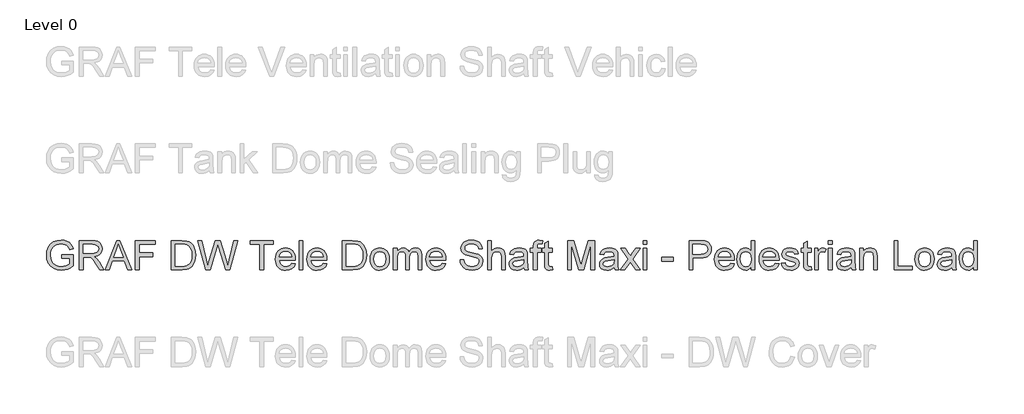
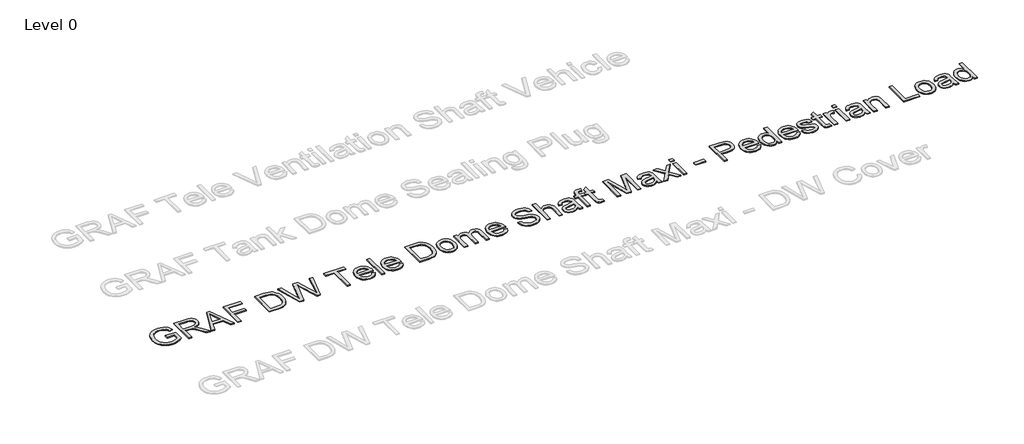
# One storey, part 4 of 25: 1 proxy.
"""IFC4 building model written with IfcOpenShell, lengths in millimetres."""

from ifc_helpers import new_model, si_unit, origin, origin_with_axes, place, context, project, spatial, polyline, outline, extrude, element, save

model = new_model("IFC4")

# Units and contexts
model_context = context("Model", 3, world=origin())
ifc_project = project(units=[si_unit("LENGTHUNIT", "METRE", prefix="MILLI")], contexts=[model_context])

# Site, building, storey
site = spatial("IfcSite", under=ifc_project)
building = spatial("IfcBuilding", under=site)
storey = spatial("IfcBuildingStorey", under=building, Name="Level 0", Elevation=0.0)

# Proxy
placement = place(None, origin())
element("IfcBuildingElementProxy", 1, Name="300mm Arial", ObjectType="300mm Arial", at=placement, inside=storey, context=model_context, shape_type="SweptSolid", body=[
    extrude(outline(polyline([(-15240.9940387, -10083.2545597), (-15240.9940387, -10045.5834434), (-15118.5629107, -10045.5834434), (-15118.5629107, -10158.2289103), (-15148.3153671, -10178.9222726), (-15179.0059225, -10193.7663111), (-15210.5610007, -10202.7058436), (-15242.9070251, -10205.6856877), (-15285.1674693, -10200.949207), (-15323.3628175, -10186.739765), (-15355.0926395, -10163.5540022), (-15377.9565055, -10131.8885595), (-15391.7796715, -10093.9047435), (-15396.3873935, -10051.7638609), (-15391.7980656, -10009.3194757), (-15378.0300819, -9969.8365406), (-15355.6536596, -9936.717964), (-15325.2390156, -9913.3666543), (-15288.1932987, -9899.5158972), (-15245.9236575, -9894.8989782), (-15214.8928112, -9897.5753197), (-15186.9889618, -9905.6043443), (-15163.4904994, -9918.4066377), (-15145.6758138, -9935.4027859), (-15132.4964413, -9957.4113262), (-15122.9039183, -9985.2507962), (-15157.6319786, -9995.0364573), (-15165.3850917, -9975.1800266), (-15174.8120678, -9960.1980323), (-15187.2832674, -9948.9040551), (-15204.169051, -9940.1116754), (-15224.3013932, -9934.4554897), (-15246.5122687, -9932.5700945), (-15272.5123287, -9934.6026425), (-15294.7415982, -9940.7002866), (-15313.1173039, -9950.0996716), (-15327.5566722, -9962.0374423), (-15346.9440533, -9991.0633317), (-15355.7732212, -10019.50061), (-15358.7162772, -10050.2187566), (-15355.175413, -10086.2436009), (-15344.5528204, -10115.8856927), (-15327.1703961, -10138.9334997), (-15303.3500369, -10155.1754898), (-15275.4737787, -10164.804801), (-15245.9236575, -10168.0145714), (-15219.831627, -10165.5957473), (-15194.3833899, -10158.3392749), (-15172.2828791, -10148.3420817), (-15156.234027, -10137.701095), (-15156.234027, -10083.2545597), (-15240.9940387, -10083.2545597)])), origin_with_axes(), (0.0, 0.0, 1.0), 10.0),
    extrude(outline(polyline([(-15057.3473467, -10200.9767982), (-15057.3473467, -9899.6078677), (-14927.4850024, -9899.6078677), (-14892.5821982, -9901.6404158), (-14867.1891434, -9907.7380598), (-14848.6294968, -9918.9952489), (-14834.2269167, -9936.5064318), (-14824.9838815, -9958.2206666), (-14821.9028698, -9982.087011), (-14827.0072325, -10011.7750881), (-14842.3203206, -10036.3863935), (-14853.9200997, -10046.4157764), (-14868.3019865, -10054.4310054), (-14905.4120827, -10064.4190016), (-14884.0013506, -10080.532233), (-14853.467145, -10119.3069952), (-14803.2144645, -10200.9767982), (-14846.9924219, -10200.9767982), (-14886.2086426, -10138.5104354), (-14914.5355562, -10097.1604991), (-14934.4379722, -10077.6259652), (-14952.3538253, -10070.4522663), (-14974.2060158, -10069.1278911), (-15019.6762304, -10069.1278911), (-15019.6762304, -10200.9767982), (-15057.3473467, -10200.9767982)]), holes=[polyline([(-15019.6762304, -10031.4567748), (-14935.3576771, -10031.4567748), (-14911.1418448, -10030.1232026), (-14892.3522719, -10026.1224859), (-14878.2072092, -10019.1879103), (-14867.9249074, -10009.0527613), (-14861.6617165, -9996.7930938), (-14859.5739861, -9983.4849626), (-14863.5563087, -9965.109257), (-14875.5032765, -9950.3020067), (-14896.058683, -9940.5347397), (-14925.8663217, -9937.278984), (-15019.6762304, -9937.278984), (-15019.6762304, -10031.4567748)])]), origin_with_axes(), (0.0, 0.0, 1.0), 10.0),
    extrude(outline(polyline([(-14791.0743586, -10200.9767982), (-14670.7769462, -9899.6078677), (-14638.6976362, -9899.6078677), (-14518.4002238, -10200.9767982), (-14558.2050557, -10200.9767982), (-14592.7123868, -10106.7990074), (-14716.835772, -10106.7990074), (-14751.2695268, -10200.9767982), (-14791.0743586, -10200.9767982)]), holes=[polyline([(-14703.003409, -10069.1278911), (-14606.4711735, -10069.1278911), (-14633.6208647, -9995.0364573), (-14654.7372912, -9937.278984), (-14673.499273, -9988.5617342), (-14703.003409, -10069.1278911)])]), origin_with_axes(), (0.0, 0.0, 1.0), 10.0),
    extrude(outline(polyline([(-14478.1539335, -10200.9767982), (-14478.1539335, -9899.6078677), (-14275.6716834, -9899.6078677), (-14275.6716834, -9937.278984), (-14440.4828172, -9937.278984), (-14440.4828172, -10026.7478853), (-14299.2161311, -10026.7478853), (-14299.2161311, -10064.4190016), (-14440.4828172, -10064.4190016), (-14440.4828172, -10200.9767982), (-14478.1539335, -10200.9767982)])), origin_with_axes(), (0.0, 0.0, 1.0), 10.0),
    extrude(outline(polyline([(-14106.15166, -10200.9767982), (-14106.15166, -9899.6078677), (-14002.1882082, -9899.6078677), (-13948.4038605, -9903.9488753), (-13924.3811662, -9912.3181907), (-13904.1108683, -9925.5067602), (-13883.2703532, -9948.4625967), (-13868.4263147, -9977.0102395), (-13859.5419645, -10010.5978657), (-13856.5805145, -10048.6736522), (-13858.5854714, -10081.0196766), (-13864.600342, -10109.484546), (-13873.7606037, -10133.7187724), (-13885.2017337, -10153.372868), (-13898.3719091, -10168.8882911), (-13912.719307, -10180.7065002), (-13929.1912233, -10189.4712888), (-13948.7349543, -10195.8264502), (-13997.185013, -10200.9767982), (-14106.15166, -10200.9767982)]), holes=[polyline([(-14068.4805437, -10163.3056819), (-14001.8203262, -10163.3056819), (-13974.2475706, -10161.9445185), (-13953.3334792, -10157.8610283), (-13937.5513416, -10151.2943347), (-13925.3744476, -10142.4835609), (-13912.2870456, -10126.1771915), (-13902.4553993, -10105.069962), (-13896.3025729, -10079.069902), (-13894.2516308, -10048.085041), (-13898.2707416, -10007.0294103), (-13910.328074, -9976.7159339), (-13928.1427596, -9955.893813), (-13949.4339301, -9943.3122488), (-13971.1021796, -9938.7873002), (-14002.8503958, -9937.278984), (-14068.4805437, -9937.278984), (-14068.4805437, -10163.3056819)])]), origin_with_axes(), (0.0, 0.0, 1.0), 10.0),
    extrude(outline(polyline([(-13750.8512291, -10200.9767982), (-13833.0360668, -9899.6078677), (-13794.1877281, -9899.6078677), (-13746.5102215, -10097.6755339), (-13731.7949417, -10158.8175215), (-13716.0495923, -10104.7388682), (-13656.3055563, -9899.6078677), (-13600.3139166, -9899.6078677), (-13556.9038412, -10048.3057702), (-13538.3074064, -10103.4880695), (-13524.603802, -10158.8175215), (-13510.3299806, -10099.4413675), (-13462.2110157, -9899.6078677), (-13423.362677, -9899.6078677), (-13505.6210911, -10200.9767982), (-13545.8673814, -10200.9767982), (-13618.1194052, -9968.4753772), (-13628.1993719, -9936.0281853), (-13639.5301373, -9975.0972531), (-13705.3810145, -10200.9767982), (-13750.8512291, -10200.9767982)])), origin_with_axes(), (0.0, 0.0, 1.0), 10.0),
    extrude(outline(polyline([(-13192.6270896, -10200.9767982), (-13192.6270896, -9937.278984), (-13291.5137699, -9937.278984), (-13291.5137699, -9899.6078677), (-13056.069293, -9899.6078677), (-13056.069293, -9937.278984), (-13154.9559733, -9937.278984), (-13154.9559733, -10200.9767982), (-13192.6270896, -10200.9767982)])), origin_with_axes(), (0.0, 0.0, 1.0), 10.0),
    extrude(outline(polyline([(-12863.4462803, -10135.0523446), (-12826.510928, -10139.7612342), (-12839.8190592, -10167.5915071), (-12861.0550473, -10188.3952339), (-12889.7406459, -10201.3630743), (-12925.3976083, -10205.6856877), (-12948.7719106, -10203.8209859), (-12969.59863, -10198.2268803), (-12987.8777667, -10188.9033709), (-13003.6093205, -10175.8504579), (-13016.2598626, -10159.4314246), (-13025.2959641, -10140.0095545), (-13030.717625, -10117.5848477), (-13032.5248453, -10092.157304), (-13030.6992309, -10065.8675369), (-13025.2223877, -10042.6955698), (-13016.0943157, -10022.6414025), (-13003.3150149, -10005.7050351), (-12987.6248478, -9992.2497512), (-12969.7641769, -9982.638834), (-12949.7330023, -9976.8722838), (-12927.5313239, -9974.9501003), (-12906.0447161, -9976.8676852), (-12886.613649, -9982.6204399), (-12869.2381225, -9992.2083644), (-12853.9181366, -10005.6314587), (-12841.4124481, -10022.5310379), (-12832.4798134, -10042.548417), (-12827.1202325, -10065.6835959), (-12825.3337056, -10091.9365748), (-12825.5544348, -10102.0901179), (-12994.853729, -10102.0901179), (-12988.3330206, -10130.2882728), (-12973.1854795, -10151.0184232), (-12951.3240919, -10163.7655344), (-12924.6618443, -10168.0145714), (-12904.6122756, -10166.0464027), (-12887.726492, -10160.1418967), (-12874.0044936, -10149.9331713), (-12863.4462803, -10135.0523446)]), holes=[polyline([(-12994.853729, -10064.4190016), (-12863.0048219, -10064.4190016), (-12868.0999875, -10044.5165856), (-12878.0879837, -10030.2795524), (-12900.0505388, -10017.0358006), (-12927.6784767, -10012.6212166), (-12953.0715314, -10016.1436868), (-12974.0683963, -10026.7110971), (-12988.6641144, -10043.1830134), (-12994.853729, -10064.4190016)])]), origin_with_axes(), (0.0, 0.0, 1.0), 10.0),
    extrude(outline(polyline([(-12787.6625893, -10200.9767982), (-12787.6625893, -9899.6078677), (-12749.991473, -9899.6078677), (-12749.991473, -10200.9767982), (-12787.6625893, -10200.9767982)])), origin_with_axes(), (0.0, 0.0, 1.0), 10.0),
    extrude(outline(polyline([(-12538.5329022, -10135.0523446), (-12501.5975499, -10139.7612342), (-12514.905681, -10167.5915071), (-12536.1416692, -10188.3952339), (-12564.8272678, -10201.3630743), (-12600.4842302, -10205.6856877), (-12623.8585324, -10203.8209859), (-12644.6852519, -10198.2268803), (-12662.9643885, -10188.9033709), (-12678.6959423, -10175.8504579), (-12691.3464844, -10159.4314246), (-12700.3825859, -10140.0095545), (-12705.8042468, -10117.5848477), (-12707.6114672, -10092.157304), (-12705.7858527, -10065.8675369), (-12700.3090095, -10042.6955698), (-12691.1809375, -10022.6414025), (-12678.4016367, -10005.7050351), (-12662.7114696, -9992.2497512), (-12644.8507988, -9982.638834), (-12624.8196241, -9976.8722838), (-12602.6179457, -9974.9501003), (-12581.1313379, -9976.8676852), (-12561.7002708, -9982.6204399), (-12544.3247443, -9992.2083644), (-12529.0047585, -10005.6314587), (-12516.4990699, -10022.5310379), (-12507.5664352, -10042.548417), (-12502.2068544, -10065.6835959), (-12500.4203275, -10091.9365748), (-12500.6410567, -10102.0901179), (-12669.9403508, -10102.0901179), (-12663.4196425, -10130.2882728), (-12648.2721013, -10151.0184232), (-12626.4107138, -10163.7655344), (-12599.7484662, -10168.0145714), (-12579.6988974, -10166.0464027), (-12562.8131138, -10160.1418967), (-12549.0911154, -10149.9331713), (-12538.5329022, -10135.0523446)]), holes=[polyline([(-12669.9403508, -10064.4190016), (-12538.0914438, -10064.4190016), (-12543.1866094, -10044.5165856), (-12553.1746056, -10030.2795524), (-12575.1371607, -10017.0358006), (-12602.7650985, -10012.6212166), (-12628.1581532, -10016.1436868), (-12649.1550181, -10026.7110971), (-12663.7507363, -10043.1830134), (-12669.9403508, -10064.4190016)])]), origin_with_axes(), (0.0, 0.0, 1.0), 10.0),
    extrude(outline(polyline([(-12340.3180832, -10200.9767982), (-12340.3180832, -9899.6078677), (-12236.3546313, -9899.6078677), (-12182.5702836, -9903.9488753), (-12158.5475893, -9912.3181907), (-12138.2772914, -9925.5067602), (-12117.4367764, -9948.4625967), (-12102.5927379, -9977.0102395), (-12093.7083877, -10010.5978657), (-12090.7469376, -10048.6736522), (-12092.7518945, -10081.0196766), (-12098.7667651, -10109.484546), (-12107.9270268, -10133.7187724), (-12119.3681569, -10153.372868), (-12132.5383323, -10168.8882911), (-12146.8857301, -10180.7065002), (-12163.3576464, -10189.4712888), (-12182.9013774, -10195.8264502), (-12231.3514362, -10200.9767982), (-12340.3180832, -10200.9767982)]), holes=[polyline([(-12302.6469669, -10163.3056819), (-12235.9867493, -10163.3056819), (-12208.4139938, -10161.9445185), (-12187.4999024, -10157.8610283), (-12171.7177648, -10151.2943347), (-12159.5408707, -10142.4835609), (-12146.4534688, -10126.1771915), (-12136.6218224, -10105.069962), (-12130.4689961, -10079.069902), (-12128.4180539, -10048.085041), (-12132.4371647, -10007.0294103), (-12144.4944971, -9976.7159339), (-12162.3091827, -9955.893813), (-12183.6003532, -9943.3122488), (-12205.2686027, -9938.7873002), (-12237.0168189, -9937.278984), (-12302.6469669, -9937.278984), (-12302.6469669, -10163.3056819)])]), origin_with_axes(), (0.0, 0.0, 1.0), 10.0),
    extrude(outline(polyline([(-12053.0758213, -10090.317894), (-12051.0386748, -10061.6552881), (-12044.9272351, -10036.9566106), (-12034.7415024, -10016.2218617), (-12020.4814766, -9999.4510412), (-12006.1248817, -9988.7318796), (-11990.2783648, -9981.0753356), (-11972.9419257, -9976.4814091), (-11954.1155646, -9974.9501003), (-11933.3325312, -9976.8148022), (-11914.540659, -9982.4089078), (-11897.7399481, -9991.7324171), (-11882.9303986, -10004.7853302), (-11870.8431758, -10021.1261885), (-11862.2094452, -10040.3135338), (-11857.0292068, -10062.3473661), (-11855.3024607, -10087.2276853), (-11858.3558813, -10125.2850777), (-11867.516143, -10154.2557848), (-11882.5165313, -10175.9516255), (-11903.0903319, -10192.1844185), (-11927.5268934, -10202.3103704), (-11954.1155646, -10205.6856877), (-11975.2021007, -10203.8278836), (-11994.1687169, -10198.2544714), (-12011.015413, -10188.965451), (-12025.7421891, -10175.9608225), (-12037.7006532, -10159.461315), (-12046.2424133, -10139.6876578), (-12051.3674693, -10116.6398508), (-12053.0758213, -10090.317894)]), holes=[polyline([(-12015.404705, -10090.2443176), (-12011.0453034, -10124.3377815), (-11997.9670985, -10148.6271903), (-11978.2854117, -10163.1677261), (-11954.1155646, -10168.0145714), (-11930.0560821, -10163.140135), (-11910.4111836, -10148.5168257), (-11897.3329787, -10123.9055202), (-11892.973577, -10089.0670952), (-11897.3605698, -10055.9669127), (-11910.5215482, -10032.0085978), (-11930.1940379, -10017.4680619), (-11954.1155646, -10012.6212166), (-11978.2854117, -10017.4496678), (-11997.9670985, -10031.9350214), (-12011.0453034, -10056.1692478), (-12015.404705, -10090.2443176)])]), origin_with_axes(), (0.0, 0.0, 1.0), 10.0),
    extrude(outline(polyline([(-11812.9224549, -10200.9767982), (-11812.9224549, -9979.6589899), (-11775.2513386, -9979.6589899), (-11775.2513386, -10016.0793074), (-11763.9205731, -9999.3498737), (-11749.3524461, -9986.2440776), (-11732.0435982, -9977.7735947), (-11712.4906702, -9974.9501003), (-11691.5397906, -9977.828777), (-11674.7459775, -9986.4648068), (-11662.2012015, -10000.2879728), (-11653.997433, -10018.7280578), (-11640.2662375, -9999.5752014), (-11624.6036615, -9985.8945897), (-11607.0097051, -9977.6862227), (-11587.4843682, -9974.9501003), (-11559.1666517, -9979.50264), (-11538.2249691, -9993.1602591), (-11525.2847199, -10016.2908395), (-11520.9713035, -10049.2622634), (-11520.9713035, -10200.9767982), (-11558.6424198, -10200.9767982), (-11558.6424198, -10065.4490712), (-11562.1372988, -10033.9951606), (-11567.0485234, -10025.3223425), (-11574.7924394, -10018.5073286), (-11584.7528444, -10014.0927446), (-11596.3135361, -10012.6212166), (-11616.7217898, -10016.3920071), (-11633.359253, -10027.7043784), (-11644.423304, -10047.3308829), (-11648.111321, -10076.0440726), (-11648.111321, -10200.9767982), (-11685.7824373, -10200.9767982), (-11685.7824373, -10061.2552164), (-11687.9621382, -10039.9548489), (-11694.5012406, -10024.7613225), (-11706.00675, -10015.6562431), (-11723.0856717, -10012.6212166), (-11737.5986164, -10014.6445676), (-11750.9711269, -10020.7146205), (-11762.0075867, -10030.6842226), (-11769.5123794, -10044.406221), (-11773.8165988, -10063.4441143), (-11775.2513386, -10089.3614008), (-11775.2513386, -10200.9767982), (-11812.9224549, -10200.9767982)])), origin_with_axes(), (0.0, 0.0, 1.0), 10.0),
    extrude(outline(polyline([(-11309.5127327, -10135.0523446), (-11272.5773804, -10139.7612342), (-11285.8855115, -10167.5915071), (-11307.1214997, -10188.3952339), (-11335.8070983, -10201.3630743), (-11371.4640607, -10205.6856877), (-11394.8383629, -10203.8209859), (-11415.6650824, -10198.2268803), (-11433.944219, -10188.9033709), (-11449.6757728, -10175.8504579), (-11462.326315, -10159.4314246), (-11471.3624165, -10140.0095545), (-11476.7840774, -10117.5848477), (-11478.5912977, -10092.157304), (-11476.7656833, -10065.8675369), (-11471.2888401, -10042.6955698), (-11462.1607681, -10022.6414025), (-11449.3814672, -10005.7050351), (-11433.6913002, -9992.2497512), (-11415.8306293, -9982.638834), (-11395.7994546, -9976.8722838), (-11373.5977762, -9974.9501003), (-11352.1111685, -9976.8676852), (-11332.6801013, -9982.6204399), (-11315.3045748, -9992.2083644), (-11299.984589, -10005.6314587), (-11287.4789004, -10022.5310379), (-11278.5462657, -10042.548417), (-11273.1866849, -10065.6835959), (-11271.400158, -10091.9365748), (-11271.6208872, -10102.0901179), (-11440.9201814, -10102.0901179), (-11434.399473, -10130.2882728), (-11419.2519318, -10151.0184232), (-11397.3905443, -10163.7655344), (-11370.7282967, -10168.0145714), (-11350.6787279, -10166.0464027), (-11333.7929444, -10160.1418967), (-11320.0709459, -10149.9331713), (-11309.5127327, -10135.0523446)]), holes=[polyline([(-11440.9201814, -10064.4190016), (-11309.0712743, -10064.4190016), (-11314.1664399, -10044.5165856), (-11324.1544361, -10030.2795524), (-11346.1169912, -10017.0358006), (-11373.744929, -10012.6212166), (-11399.1379838, -10016.1436868), (-11420.1348486, -10026.7110971), (-11434.7305668, -10043.1830134), (-11440.9201814, -10064.4190016)])]), origin_with_axes(), (0.0, 0.0, 1.0), 10.0),
    extrude(outline(polyline([(-11125.4245823, -10097.3812283), (-11087.753466, -10097.3812283), (-11083.4308525, -10118.2861227), (-11075.6133601, -10135.0891328), (-11063.418072, -10148.4248552), (-11045.9620713, -10158.9278861), (-11024.6249156, -10165.7429001), (-11000.7861623, -10168.0145714), (-10979.7984945, -10166.2947231), (-10961.4227888, -10161.1351781), (-10946.5327651, -10152.9681978), (-10936.002143, -10142.2260435), (-10929.738952, -10129.8927997), (-10927.6512217, -10116.9525505), (-10929.2147202, -10104.3433951), (-10933.9052156, -10093.444891), (-10943.4333593, -10084.1466736), (-10959.5098025, -10076.3383782), (-11014.361008, -10061.9541922), (-11050.3674582, -10052.4352456), (-11073.4060682, -10043.3761514), (-11092.1588529, -10030.7026167), (-11105.44859, -10015.3435434), (-11113.3672499, -9997.6300253), (-11116.0068032, -9977.8931563), (-11112.7418505, -9955.8294336), (-11102.9469924, -9935.2556331), (-11086.8797462, -9917.8180265), (-11064.7976295, -9905.1628859), (-11038.2917317, -9897.4649551), (-11008.9531426, -9894.8989782), (-10977.1681382, -9897.5845168), (-10949.3562594, -9905.6411325), (-10926.5107875, -9918.9032784), (-10909.6250039, -9937.2054076), (-10898.938032, -9959.407086), (-10894.6889949, -9984.3678794), (-10932.3601112, -9984.3678794), (-10939.2762927, -9961.8902895), (-10953.6972669, -9945.6666935), (-10976.2300392, -9935.8442443), (-11007.4816146, -9932.5700945), (-11039.4689541, -9935.8074561), (-11061.4131151, -9945.5195407), (-11074.105044, -9959.8117562), (-11078.3356869, -9976.7895103), (-11075.3374487, -9991.2656668), (-11066.3427339, -10002.909132), (-11045.0791545, -10013.3201924), (-11004.8328643, -10023.9519821), (-10963.298987, -10034.0503429), (-10938.1726467, -10042.8611167), (-10916.6975353, -10056.5279328), (-10901.715541, -10073.3953223), (-10892.9139643, -10093.2793441), (-10889.9801054, -10115.9960573), (-10893.3554227, -10139.2186082), (-10903.4813746, -10161.0616017), (-10919.9440939, -10179.8603717), (-10942.3297133, -10193.9502521), (-10969.2494783, -10202.7518288), (-10999.3146343, -10205.6856877), (-11036.2223955, -10202.5219026), (-11066.6002513, -10193.0305471), (-11090.7976895, -10177.1748331), (-11109.1641981, -10154.9179724), (-11120.9548161, -10127.8050693), (-11125.4245823, -10097.3812283)])), origin_with_axes(), (0.0, 0.0, 1.0), 10.0),
    extrude(outline(polyline([(-10838.1823205, -10200.9767982), (-10838.1823205, -9899.6078677), (-10800.5112042, -9899.6078677), (-10800.5112042, -10010.4139247), (-10786.6742426, -9994.8985015), (-10771.1358268, -9983.8160564), (-10753.8959568, -9977.1665894), (-10734.9546326, -9974.9501003), (-10712.2011312, -9977.3689245), (-10692.6482032, -9984.6253968), (-10677.2523417, -9996.1493003), (-10666.9700399, -10011.3704179), (-10661.1758985, -10032.2845093), (-10659.244518, -10060.8873344), (-10659.244518, -10200.9767982), (-10696.9156343, -10200.9767982), (-10696.9156343, -10064.7868836), (-10699.9138726, -10041.2056477), (-10708.9085874, -10025.0556281), (-10723.403138, -10015.7298195), (-10742.9008837, -10012.6212166), (-10758.8209771, -10014.718144), (-10773.7661831, -10021.0089261), (-10786.1454122, -10030.8865577), (-10794.3675748, -10043.7440334), (-10798.9752968, -10060.8321521), (-10800.5112042, -10083.4017125), (-10800.5112042, -10200.9767982), (-10838.1823205, -10200.9767982)])), origin_with_axes(), (0.0, 0.0, 1.0), 10.0),
    extrude(outline(polyline([(-10466.1800469, -10172.7234609), (-10484.1786736, -10188.1561106), (-10502.7107291, -10198.2544714), (-10522.1992778, -10203.8278836), (-10543.0673839, -10205.6856877), (-10574.5488857, -10201.2159215), (-10597.7714366, -10187.8066228), (-10612.0912433, -10167.4443543), (-10616.8645122, -10142.1156789), (-10615.0618904, -10126.4990883), (-10609.6540251, -10112.3172373), (-10601.3123008, -10100.1771315), (-10590.7081023, -10090.685776), (-10564.3309633, -10078.324941), (-10531.7366185, -10072.6595583), (-10493.2193736, -10066.6998699), (-10466.4007761, -10059.710112), (-10466.1800469, -10051.3224025), (-10468.773615, -10034.5101954), (-10476.5543192, -10023.5105237), (-10493.9551376, -10015.3435434), (-10518.1985611, -10012.6212166), (-10540.6393628, -10014.4330355), (-10556.3111358, -10019.868492), (-10566.9981077, -10029.9208675), (-10574.4845063, -10045.5834434), (-10612.1556226, -10040.8745539), (-10605.6165202, -10020.2731621), (-10595.8584502, -10004.0863544), (-10581.9709049, -9991.7071252), (-10563.0433763, -9982.5284694), (-10539.8944017, -9976.8446926), (-10513.3425187, -9974.9501003), (-10487.8758876, -9976.6239634), (-10467.6883631, -9981.6455527), (-10452.4672456, -9989.1963306), (-10441.8998353, -9998.4577598), (-10434.8916832, -10009.9080869), (-10430.3483406, -10024.0255585), (-10428.5089306, -10056.9877853), (-10428.5089306, -10103.8559515), (-10426.5959443, -10169.3021584), (-10419.0911516, -10200.9767982), (-10456.7622679, -10200.9767982), (-10466.1800469, -10172.7234609)]), holes=[polyline([(-10466.1800469, -10097.3812283), (-10526.9541525, -10108.932723), (-10559.3645563, -10115.0395641), (-10574.0430479, -10124.972378), (-10579.1933959, -10139.4669286), (-10576.3882956, -10150.6689353), (-10567.972995, -10159.8475911), (-10554.1314349, -10165.9728263), (-10535.0475564, -10168.0145714), (-10514.8140467, -10165.7612942), (-10496.9349817, -10159.0014625), (-10482.4404311, -10149.0410575), (-10472.3604645, -10137.1860602), (-10467.8906982, -10124.972378), (-10466.4007761, -10108.0498062), (-10466.1800469, -10097.3812283)])]), origin_with_axes(), (0.0, 0.0, 1.0), 10.0),
    extrude(outline(polyline([(-10367.2933666, -10200.9767982), (-10367.2933666, -10017.3301062), (-10400.2555934, -10017.3301062), (-10400.2555934, -9979.6589899), (-10367.2933666, -9979.6589899), (-10367.2933666, -9957.365341), (-10363.3202411, -9925.9482186), (-10355.741872, -9913.4218366), (-10344.0432245, -9903.5074169), (-10327.6724758, -9897.0510879), (-10306.0778026, -9894.8989782), (-10271.7176243, -9899.0192565), (-10277.2358542, -9934.3359281), (-10298.9408919, -9932.5700945), (-10313.2606986, -9934.133593), (-10322.6692806, -9938.8240884), (-10327.8840079, -9947.782015), (-10329.6222503, -9962.1478069), (-10329.6222503, -9979.6589899), (-10287.2422445, -9979.6589899), (-10287.2422445, -10017.3301062), (-10329.6222503, -10017.3301062), (-10329.6222503, -10200.9767982), (-10367.2933666, -10200.9767982)])), origin_with_axes(), (0.0, 0.0, 1.0), 10.0),
    extrude(outline(polyline([(-10174.2288956, -10169.5596758), (-10169.520006, -10202.0804442), (-10197.6997669, -10205.6856877), (-10215.7811669, -10204.1221892), (-10229.264042, -10199.4316938), (-10238.7921857, -10192.2028126), (-10245.0093914, -10183.0241568), (-10248.430694, -10167.2604133), (-10249.5711282, -10140.276269), (-10249.5711282, -10017.3301062), (-10277.8244654, -10017.3301062), (-10277.8244654, -9979.6589899), (-10249.5711282, -9979.6589899), (-10249.5711282, -9925.8746422), (-10211.9000119, -9903.7281461), (-10211.9000119, -9979.6589899), (-10174.2288956, -9979.6589899), (-10174.2288956, -10017.3301062), (-10211.9000119, -10017.3301062), (-10211.9000119, -10139.172623), (-10209.9134491, -10158.5967923), (-10203.4755142, -10165.4761856), (-10190.6364325, -10168.0145714), (-10174.2288956, -10169.5596758)])), origin_with_axes(), (0.0, 0.0, 1.0), 10.0),
    extrude(outline(polyline([(-10014.1266513, -10200.9767982), (-10014.1266513, -9899.6078677), (-9949.3058437, -9899.6078677), (-9887.6488213, -10112.0229317), (-9875.2144099, -10156.3895004), (-9861.7499289, -10108.3441118), (-9801.1229761, -9899.6078677), (-9736.3021685, -9899.6078677), (-9736.3021685, -10200.9767982), (-9773.9732848, -10200.9767982), (-9773.9732848, -9937.278984), (-9849.6833994, -10200.9767982), (-9900.7454204, -10200.9767982), (-9976.455535, -9937.278984), (-9976.455535, -10200.9767982), (-10014.1266513, -10200.9767982)])), origin_with_axes(), (0.0, 0.0, 1.0), 10.0),
    extrude(outline(polyline([(-9533.8199184, -10172.7234609), (-9551.818545, -10188.1561106), (-9570.3506005, -10198.2544714), (-9589.8391492, -10203.8278836), (-9610.7072554, -10205.6856877), (-9642.1887571, -10201.2159215), (-9665.411308, -10187.8066228), (-9679.7311147, -10167.4443543), (-9684.5043836, -10142.1156789), (-9682.7017618, -10126.4990883), (-9677.2938965, -10112.3172373), (-9668.9521722, -10100.1771315), (-9658.3479737, -10090.685776), (-9631.9708347, -10078.324941), (-9599.3764899, -10072.6595583), (-9560.859245, -10066.6998699), (-9534.0406476, -10059.710112), (-9533.8199184, -10051.3224025), (-9536.4134864, -10034.5101954), (-9544.1941906, -10023.5105237), (-9561.595009, -10015.3435434), (-9585.8384325, -10012.6212166), (-9608.2792342, -10014.4330355), (-9623.9510072, -10019.868492), (-9634.6379791, -10029.9208675), (-9642.1243777, -10045.5834434), (-9679.795494, -10040.8745539), (-9673.2563916, -10020.2731621), (-9663.4983217, -10004.0863544), (-9649.6107763, -9991.7071252), (-9630.6832477, -9982.5284694), (-9607.5342731, -9976.8446926), (-9580.9823901, -9974.9501003), (-9555.515759, -9976.6239634), (-9535.3282345, -9981.6455527), (-9520.107117, -9989.1963306), (-9509.5397067, -9998.4577598), (-9502.5315547, -10009.9080869), (-9497.988212, -10024.0255585), (-9496.1488021, -10056.9877853), (-9496.1488021, -10103.8559515), (-9494.2358157, -10169.3021584), (-9486.731023, -10200.9767982), (-9524.4021393, -10200.9767982), (-9533.8199184, -10172.7234609)]), holes=[polyline([(-9533.8199184, -10097.3812283), (-9594.594024, -10108.932723), (-9627.0044277, -10115.0395641), (-9641.6829193, -10124.972378), (-9646.8332673, -10139.4669286), (-9644.0281671, -10150.6689353), (-9635.6128664, -10159.8475911), (-9621.7713064, -10165.9728263), (-9602.6874279, -10168.0145714), (-9582.4539181, -10165.7612942), (-9564.5748532, -10159.0014625), (-9550.0803025, -10149.0410575), (-9540.0003359, -10137.1860602), (-9535.5305696, -10124.972378), (-9534.0406476, -10108.0498062), (-9533.8199184, -10097.3812283)])]), origin_with_axes(), (0.0, 0.0, 1.0), 10.0),
    extrude(outline(polyline([(-9467.8954648, -10200.9767982), (-9387.4028843, -10089.7292828), (-9463.1865753, -9979.6589899), (-9417.8635135, -9979.6589899), (-9381.2960432, -10032.6339972), (-9364.2263186, -10057.6499729), (-9349.4374624, -10037.1957339), (-9307.7932205, -9979.6589899), (-9262.4701587, -9979.6589899), (-9342.0798225, -10089.7292828), (-9265.4132147, -10200.9767982), (-9310.7362765, -10200.9767982), (-9356.8686787, -10134.0958515), (-9365.3299646, -10121.8821692), (-9422.572403, -10200.9767982), (-9467.8954648, -10200.9767982)])), origin_with_axes(), (0.0, 0.0, 1.0), 10.0),
    extrude(outline(polyline([(-9232.4509879, -10200.9767982), (-9232.4509879, -9979.6589899), (-9194.7798716, -9979.6589899), (-9194.7798716, -10200.9767982), (-9232.4509879, -10200.9767982)])), origin_with_axes(), (0.0, 0.0, 1.0), 10.0),
    extrude(outline(polyline([(-9232.4509879, -9937.278984), (-9232.4509879, -9899.6078677), (-9194.7798716, -9899.6078677), (-9194.7798716, -9937.278984), (-9232.4509879, -9937.278984)])), origin_with_axes(), (0.0, 0.0, 1.0), 10.0),
    extrude(outline(polyline([(-9039.3865168, -10111.507897), (-9039.3865168, -10073.8367806), (-8921.6642784, -10073.8367806), (-8921.6642784, -10111.507897), (-9039.3865168, -10111.507897)])), origin_with_axes(), (0.0, 0.0, 1.0), 10.0),
    extrude(outline(polyline([(-8756.8531445, -10200.9767982), (-8756.8531445, -9899.6078677), (-8645.1641708, -9899.6078677), (-8600.1354146, -9902.4773473), (-8580.0582547, -9907.8392274), (-8563.5311561, -9916.5672277), (-8550.2230249, -9929.0568214), (-8539.8027674, -9945.7034817), (-8533.0705269, -9965.3391832), (-8530.8264467, -9986.7959006), (-8532.3416607, -10005.2957664), (-8536.8873026, -10022.3149072), (-8544.4633724, -10037.853323), (-8555.0698702, -10051.9110137), (-8569.6310994, -10063.5636759), (-8589.0713636, -10071.8870061), (-8613.3906627, -10076.8810042), (-8642.5889968, -10078.5456702), (-8719.1820282, -10078.5456702), (-8719.1820282, -10200.9767982), (-8756.8531445, -10200.9767982)]), holes=[polyline([(-8719.1820282, -10040.8745539), (-8640.3817049, -10040.8745539), (-8606.9780197, -10037.4164631), (-8584.9051, -10027.0421909), (-8572.5994473, -10010.3955306), (-8568.497563, -9988.1202758), (-8570.9163871, -9971.197704), (-8578.1728595, -9956.9238826), (-8589.3656692, -9946.1817283), (-8603.5935054, -9939.854158), (-8641.2646217, -9937.278984), (-8719.1820282, -9937.278984), (-8719.1820282, -10040.8745539)])]), origin_with_axes(), (0.0, 0.0, 1.0), 10.0),
    extrude(outline(polyline([(-8328.785655, -10135.0523446), (-8291.8503026, -10139.7612342), (-8305.1584338, -10167.5915071), (-8326.394422, -10188.3952339), (-8355.0800206, -10201.3630743), (-8390.7369829, -10205.6856877), (-8414.1112852, -10203.8209859), (-8434.9380047, -10198.2268803), (-8453.2171413, -10188.9033709), (-8468.9486951, -10175.8504579), (-8481.5992372, -10159.4314246), (-8490.6353387, -10140.0095545), (-8496.0569996, -10117.5848477), (-8497.8642199, -10092.157304), (-8496.0386055, -10065.8675369), (-8490.5617623, -10042.6955698), (-8481.4336903, -10022.6414025), (-8468.6543895, -10005.7050351), (-8452.9642224, -9992.2497512), (-8435.1035516, -9982.638834), (-8415.0723769, -9976.8722838), (-8392.8706985, -9974.9501003), (-8371.3840907, -9976.8676852), (-8351.9530236, -9982.6204399), (-8334.5774971, -9992.2083644), (-8319.2575113, -10005.6314587), (-8306.7518227, -10022.5310379), (-8297.819188, -10042.548417), (-8292.4596072, -10065.6835959), (-8290.6730803, -10091.9365748), (-8290.8938095, -10102.0901179), (-8460.1931036, -10102.0901179), (-8453.6723953, -10130.2882728), (-8438.5248541, -10151.0184232), (-8416.6634666, -10163.7655344), (-8390.001219, -10168.0145714), (-8369.9516502, -10166.0464027), (-8353.0658666, -10160.1418967), (-8339.3438682, -10149.9331713), (-8328.785655, -10135.0523446)]), holes=[polyline([(-8460.1931036, -10064.4190016), (-8328.3441966, -10064.4190016), (-8333.4393622, -10044.5165856), (-8343.4273584, -10030.2795524), (-8365.3899135, -10017.0358006), (-8393.0178513, -10012.6212166), (-8418.410906, -10016.1436868), (-8439.4077709, -10026.7110971), (-8454.0034891, -10043.1830134), (-8460.1931036, -10064.4190016)])]), origin_with_axes(), (0.0, 0.0, 1.0), 10.0),
    extrude(outline(polyline([(-8116.4441673, -10200.9767982), (-8116.4441673, -10165.4393974), (-8127.715152, -10183.0471494), (-8141.3681725, -10195.6241151), (-8157.403229, -10203.1702946), (-8175.8203214, -10205.6856877), (-8200.1741094, -10202.043656), (-8222.4677584, -10191.1175607), (-8241.3401047, -10173.6707571), (-8255.4299851, -10150.4666002), (-8264.2039707, -10122.4431893), (-8267.1286326, -10090.5386232), (-8264.433897, -10059.0295303), (-8256.3496901, -10030.573858), (-8242.8852091, -10006.790287), (-8224.0496509, -9989.2974982), (-8201.2685584, -9978.5369498), (-8175.9674742, -9974.9501003), (-8157.5365862, -9977.5160773), (-8141.2394138, -9985.214008), (-8127.4254449, -9997.013823), (-8116.4441673, -10011.8854527), (-8116.4441673, -9899.6078677), (-8078.773051, -9899.6078677), (-8078.773051, -10200.9767982), (-8116.4441673, -10200.9767982)]), holes=[polyline([(-8229.4575163, -10090.3914704), (-8225.2084792, -10124.4665402), (-8212.4613681, -10148.7007667), (-8193.9385096, -10163.1861202), (-8172.3622306, -10168.0145714), (-8150.7951486, -10163.4068494), (-8132.7413397, -10149.5836835), (-8120.5184604, -10126.2875561), (-8116.4441673, -10093.26095), (-8120.5920368, -10057.1533322), (-8133.0356453, -10032.1189624), (-8151.5493067, -10017.4956531), (-8173.907335, -10012.6212166), (-8195.7043432, -10017.302515), (-8213.5650141, -10031.3464102), (-8225.4843907, -10055.470272), (-8229.4575163, -10090.3914704)])]), origin_with_axes(), (0.0, 0.0, 1.0), 10.0),
    extrude(outline(polyline([(-7867.3144802, -10135.0523446), (-7830.3791279, -10139.7612342), (-7843.6872591, -10167.5915071), (-7864.9232472, -10188.3952339), (-7893.6088458, -10201.3630743), (-7929.2658082, -10205.6856877), (-7952.6401105, -10203.8209859), (-7973.4668299, -10198.2268803), (-7991.7459666, -10188.9033709), (-8007.4775204, -10175.8504579), (-8020.1280625, -10159.4314246), (-8029.164164, -10140.0095545), (-8034.5858249, -10117.5848477), (-8036.3930452, -10092.157304), (-8034.5674308, -10065.8675369), (-8029.0905876, -10042.6955698), (-8019.9625156, -10022.6414025), (-8007.1832148, -10005.7050351), (-7991.4930477, -9992.2497512), (-7973.6323768, -9982.638834), (-7953.6012022, -9976.8722838), (-7931.3995238, -9974.9501003), (-7909.912916, -9976.8676852), (-7890.4818489, -9982.6204399), (-7873.1063224, -9992.2083644), (-7857.7863365, -10005.6314587), (-7845.280648, -10022.5310379), (-7836.3480133, -10042.548417), (-7830.9884324, -10065.6835959), (-7829.2019055, -10091.9365748), (-7829.4226347, -10102.0901179), (-7998.7219289, -10102.0901179), (-7992.2012205, -10130.2882728), (-7977.0536794, -10151.0184232), (-7955.1922918, -10163.7655344), (-7928.5300442, -10168.0145714), (-7908.4804755, -10166.0464027), (-7891.5946919, -10160.1418967), (-7877.8726935, -10149.9331713), (-7867.3144802, -10135.0523446)]), holes=[polyline([(-7998.7219289, -10064.4190016), (-7866.8730218, -10064.4190016), (-7871.9681874, -10044.5165856), (-7881.9561836, -10030.2795524), (-7903.9187387, -10017.0358006), (-7931.5466766, -10012.6212166), (-7956.9397313, -10016.1436868), (-7977.9365962, -10026.7110971), (-7992.5323143, -10043.1830134), (-7998.7219289, -10064.4190016)])]), origin_with_axes(), (0.0, 0.0, 1.0), 10.0),
    extrude(outline(polyline([(-7805.6574578, -10135.0523446), (-7767.9863415, -10130.3434551), (-7762.0450473, -10146.4566865), (-7750.5487349, -10158.3024867), (-7733.4238281, -10165.5865502), (-7710.5967503, -10168.0145714), (-7688.045584, -10165.7888853), (-7672.18987, -10159.1118271), (-7662.8088791, -10149.4365307), (-7659.6818821, -10138.2161298), (-7662.8272732, -10128.6144097), (-7672.2634464, -10121.293558), (-7711.0382087, -10110.5514038), (-7767.7656123, -10092.1205158), (-7782.1222072, -10082.8590866), (-7792.5240706, -10070.5994191), (-7798.8424439, -10056.1232626), (-7800.9485683, -10040.2123663), (-7799.2563111, -10025.6166481), (-7794.1795396, -10012.1429701), (-7786.1781062, -10000.324761), (-7775.7118634, -9990.6954497), (-7751.7627455, -9979.5486253), (-7719.3523418, -9974.9501003), (-7694.8330068, -9976.7987074), (-7673.5142452, -9982.3445284), (-7656.3709442, -9991.0449376), (-7644.3779911, -10002.357309), (-7636.43174, -10017.118574), (-7631.4285449, -10036.1656643), (-7669.0996612, -10040.8745539), (-7673.854536, -10029.0195566), (-7683.263118, -10020.0892211), (-7697.4173778, -10014.4882178), (-7716.4092858, -10012.6212166), (-7738.0407471, -10014.4054443), (-7752.4617213, -10019.7581274), (-7760.5735193, -10027.4836493), (-7763.277452, -10036.3863935), (-7758.7892916, -10047.349277), (-7744.7361994, -10055.6634101), (-7712.2890074, -10063.6832376), (-7656.9963436, -10081.4151497), (-7642.3914284, -10089.8948297), (-7631.3181803, -10101.5015067), (-7624.3376194, -10116.2719688), (-7622.0107658, -10134.2430043), (-7624.7422896, -10152.821045), (-7632.9368611, -10170.2954398), (-7646.2817805, -10185.2958281), (-7664.4643481, -10196.4518496), (-7686.4269032, -10203.3772282), (-7711.1117851, -10205.6856877), (-7749.0956011, -10201.2343156), (-7776.8155094, -10187.8801991), (-7795.3199738, -10165.7704912), (-7805.6574578, -10135.0523446)])), origin_with_axes(), (0.0, 0.0, 1.0), 10.0),
    extrude(outline(polyline([(-7499.5796378, -10169.5596758), (-7494.8707483, -10202.0804442), (-7523.0505091, -10205.6856877), (-7541.1319092, -10204.1221892), (-7554.6147843, -10199.4316938), (-7564.142928, -10192.2028126), (-7570.3601337, -10183.0241568), (-7573.7814363, -10167.2604133), (-7574.9218704, -10140.276269), (-7574.9218704, -10017.3301062), (-7603.1752077, -10017.3301062), (-7603.1752077, -9979.6589899), (-7574.9218704, -9979.6589899), (-7574.9218704, -9925.8746422), (-7537.2507541, -9903.7281461), (-7537.2507541, -9979.6589899), (-7499.5796378, -9979.6589899), (-7499.5796378, -10017.3301062), (-7537.2507541, -10017.3301062), (-7537.2507541, -10139.172623), (-7535.2641914, -10158.5967923), (-7528.8262564, -10165.4761856), (-7515.9871748, -10168.0145714), (-7499.5796378, -10169.5596758)])), origin_with_axes(), (0.0, 0.0, 1.0), 10.0),
    extrude(outline(polyline([(-7461.9085215, -10200.9767982), (-7461.9085215, -9979.6589899), (-7428.9462948, -9979.6589899), (-7428.9462948, -10012.4004875), (-7416.7694007, -9993.4177765), (-7405.5489999, -9982.2341638), (-7394.2918108, -9976.7711162), (-7382.0045522, -9974.9501003), (-7363.2425704, -9977.8563681), (-7344.1862831, -9986.5751714), (-7356.7678473, -10020.3467385), (-7370.0115991, -10014.5525971), (-7383.255351, -10012.6212166), (-7394.503343, -10014.4790207), (-7404.5557185, -10020.052433), (-7412.6767135, -10028.918389), (-7418.1305641, -10040.6538247), (-7422.7106949, -10061.6966748), (-7424.2374052, -10084.6525113), (-7424.2374052, -10200.9767982), (-7461.9085215, -10200.9767982)])), origin_with_axes(), (0.0, 0.0, 1.0), 10.0),
    extrude(outline(polyline([(-7320.6418354, -10200.9767982), (-7320.6418354, -9979.6589899), (-7282.9707191, -9979.6589899), (-7282.9707191, -10200.9767982), (-7320.6418354, -10200.9767982)])), origin_with_axes(), (0.0, 0.0, 1.0), 10.0),
    extrude(outline(polyline([(-7320.6418354, -9937.278984), (-7320.6418354, -9899.6078677), (-7282.9707191, -9899.6078677), (-7282.9707191, -9937.278984), (-7320.6418354, -9937.278984)])), origin_with_axes(), (0.0, 0.0, 1.0), 10.0),
    extrude(outline(polyline([(-7085.1973585, -10172.7234609), (-7103.1959851, -10188.1561106), (-7121.7280406, -10198.2544714), (-7141.2165893, -10203.8278836), (-7162.0846955, -10205.6856877), (-7193.5661972, -10201.2159215), (-7216.7887481, -10187.8066228), (-7231.1085548, -10167.4443543), (-7235.8818237, -10142.1156789), (-7234.0792019, -10126.4990883), (-7228.6713366, -10112.3172373), (-7220.3296123, -10100.1771315), (-7209.7254138, -10090.685776), (-7183.3482748, -10078.324941), (-7150.75393, -10072.6595583), (-7112.2366851, -10066.6998699), (-7085.4180877, -10059.710112), (-7085.1973585, -10051.3224025), (-7087.7909265, -10034.5101954), (-7095.5716307, -10023.5105237), (-7112.9724491, -10015.3435434), (-7137.2158726, -10012.6212166), (-7159.6566743, -10014.4330355), (-7175.3284473, -10019.868492), (-7186.0154192, -10029.9208675), (-7193.5018178, -10045.5834434), (-7231.1729342, -10040.8745539), (-7224.6338317, -10020.2731621), (-7214.8757618, -10004.0863544), (-7200.9882164, -9991.7071252), (-7182.0606878, -9982.5284694), (-7158.9117132, -9976.8446926), (-7132.3598302, -9974.9501003), (-7106.8931991, -9976.6239634), (-7086.7056746, -9981.6455527), (-7071.4845571, -9989.1963306), (-7060.9171468, -9998.4577598), (-7053.9089948, -10009.9080869), (-7049.3656521, -10024.0255585), (-7047.5262422, -10056.9877853), (-7047.5262422, -10103.8559515), (-7045.6132558, -10169.3021584), (-7038.1084631, -10200.9767982), (-7075.7795794, -10200.9767982), (-7085.1973585, -10172.7234609)]), holes=[polyline([(-7085.1973585, -10097.3812283), (-7145.9714641, -10108.932723), (-7178.3818678, -10115.0395641), (-7193.0603595, -10124.972378), (-7198.2107074, -10139.4669286), (-7195.4056072, -10150.6689353), (-7186.9903065, -10159.8475911), (-7173.1487465, -10165.9728263), (-7154.064868, -10168.0145714), (-7133.8313582, -10165.7612942), (-7115.9522933, -10159.0014625), (-7101.4577427, -10149.0410575), (-7091.377776, -10137.1860602), (-7086.9080097, -10124.972378), (-7085.4180877, -10108.0498062), (-7085.1973585, -10097.3812283)])]), origin_with_axes(), (0.0, 0.0, 1.0), 10.0),
    extrude(outline(polyline([(-6995.7284572, -10200.9767982), (-6995.7284572, -9979.6589899), (-6958.0573409, -9979.6589899), (-6958.0573409, -10010.5610775), (-6944.969939, -9994.981275), (-6929.2521807, -9983.8528446), (-6910.9040662, -9977.1757864), (-6889.9255954, -9974.9501003), (-6871.3567517, -9976.7435251), (-6854.3514065, -9982.1237992), (-6840.1695556, -9990.4195382), (-6830.0711948, -10000.9593574), (-6818.7772176, -10028.6608716), (-6816.7906548, -10065.0811892), (-6816.7906548, -10200.9767982), (-6854.4617711, -10200.9767982), (-6854.4617711, -10070.1579607), (-6858.8027786, -10036.8278519), (-6864.8084522, -10026.9042351), (-6874.1434578, -10019.2063044), (-6886.1088197, -10014.2674886), (-6900.0055621, -10012.6212166), (-6922.0692848, -10016.3184307), (-6940.8772518, -10027.4100729), (-6948.3935408, -10036.4645685), (-6953.7623186, -10048.8391991), (-6958.0573409, -10083.5488653), (-6958.0573409, -10200.9767982), (-6995.7284572, -10200.9767982)])), origin_with_axes(), (0.0, 0.0, 1.0), 10.0),
    extrude(outline(polyline([(-6642.5617419, -10200.9767982), (-6642.5617419, -9899.6078677), (-6604.8906256, -9899.6078677), (-6604.8906256, -10163.3056819), (-6454.2061603, -10163.3056819), (-6454.2061603, -10200.9767982), (-6642.5617419, -10200.9767982)])), origin_with_axes(), (0.0, 0.0, 1.0), 10.0),
    extrude(outline(polyline([(-6425.9528231, -10090.317894), (-6423.9156766, -10061.6552881), (-6417.8042369, -10036.9566106), (-6407.6185042, -10016.2218617), (-6393.3584783, -9999.4510412), (-6379.0018835, -9988.7318796), (-6363.1553665, -9981.0753356), (-6345.8189275, -9976.4814091), (-6326.9925664, -9974.9501003), (-6306.2095329, -9976.8148022), (-6287.4176608, -9982.4089078), (-6270.6169499, -9991.7324171), (-6255.8074003, -10004.7853302), (-6243.7201775, -10021.1261885), (-6235.086447, -10040.3135338), (-6229.9062086, -10062.3473661), (-6228.1794625, -10087.2276853), (-6231.2328831, -10125.2850777), (-6240.3931447, -10154.2557848), (-6255.3935331, -10175.9516255), (-6275.9673337, -10192.1844185), (-6300.4038952, -10202.3103704), (-6326.9925664, -10205.6856877), (-6348.0791025, -10203.8278836), (-6367.0457186, -10198.2544714), (-6383.8924147, -10188.965451), (-6398.6191909, -10175.9608225), (-6410.577655, -10159.461315), (-6419.119415, -10139.6876578), (-6424.2444711, -10116.6398508), (-6425.9528231, -10090.317894)]), holes=[polyline([(-6388.2817068, -10090.2443176), (-6383.9223052, -10124.3377815), (-6370.8441002, -10148.6271903), (-6351.1624135, -10163.1677261), (-6326.9925664, -10168.0145714), (-6302.9330839, -10163.140135), (-6283.2881854, -10148.5168257), (-6270.2099804, -10123.9055202), (-6265.8505788, -10089.0670952), (-6270.2375716, -10055.9669127), (-6283.39855, -10032.0085978), (-6303.0710397, -10017.4680619), (-6326.9925664, -10012.6212166), (-6351.1624135, -10017.4496678), (-6370.8441002, -10031.9350214), (-6383.9223052, -10056.1692478), (-6388.2817068, -10090.2443176)])]), origin_with_axes(), (0.0, 0.0, 1.0), 10.0),
    extrude(outline(polyline([(-6044.5327705, -10172.7234609), (-6062.5313971, -10188.1561106), (-6081.0634526, -10198.2544714), (-6100.5520013, -10203.8278836), (-6121.4201075, -10205.6856877), (-6152.9016092, -10201.2159215), (-6176.1241602, -10187.8066228), (-6190.4439668, -10167.4443543), (-6195.2172357, -10142.1156789), (-6193.414614, -10126.4990883), (-6188.0067486, -10112.3172373), (-6179.6650244, -10100.1771315), (-6169.0608259, -10090.685776), (-6142.6836868, -10078.324941), (-6110.089342, -10072.6595583), (-6071.5720972, -10066.6998699), (-6044.7534997, -10059.710112), (-6044.5327705, -10051.3224025), (-6047.1263386, -10034.5101954), (-6054.9070428, -10023.5105237), (-6072.3078611, -10015.3435434), (-6096.5512846, -10012.6212166), (-6118.9920863, -10014.4330355), (-6134.6638593, -10019.868492), (-6145.3508313, -10029.9208675), (-6152.8372299, -10045.5834434), (-6190.5083462, -10040.8745539), (-6183.9692437, -10020.2731621), (-6174.2111738, -10004.0863544), (-6160.3236285, -9991.7071252), (-6141.3960998, -9982.5284694), (-6118.2471253, -9976.8446926), (-6091.6952423, -9974.9501003), (-6066.2286112, -9976.6239634), (-6046.0410867, -9981.6455527), (-6030.8199691, -9989.1963306), (-6020.2525588, -9998.4577598), (-6013.2444068, -10009.9080869), (-6008.7010642, -10024.0255585), (-6006.8616542, -10056.9877853), (-6006.8616542, -10103.8559515), (-6004.9486678, -10169.3021584), (-5997.4438751, -10200.9767982), (-6035.1149914, -10200.9767982), (-6044.5327705, -10172.7234609)]), holes=[polyline([(-6044.5327705, -10097.3812283), (-6105.3068761, -10108.932723), (-6137.7172799, -10115.0395641), (-6152.3957715, -10124.972378), (-6157.5461194, -10139.4669286), (-6154.7410192, -10150.6689353), (-6146.3257186, -10159.8475911), (-6132.4841585, -10165.9728263), (-6113.40028, -10168.0145714), (-6093.1667703, -10165.7612942), (-6075.2877053, -10159.0014625), (-6060.7931547, -10149.0410575), (-6050.713188, -10137.1860602), (-6046.2434218, -10124.972378), (-6044.7534997, -10108.0498062), (-6044.5327705, -10097.3812283)])]), origin_with_axes(), (0.0, 0.0, 1.0), 10.0),
    extrude(outline(polyline([(-5818.5060727, -10200.9767982), (-5818.5060727, -10165.4393974), (-5829.7770573, -10183.0471494), (-5843.4300778, -10195.6241151), (-5859.4651343, -10203.1702946), (-5877.8822267, -10205.6856877), (-5902.2360148, -10202.043656), (-5924.5296637, -10191.1175607), (-5943.40201, -10173.6707571), (-5957.4918904, -10150.4666002), (-5966.265876, -10122.4431893), (-5969.1905379, -10090.5386232), (-5966.4958023, -10059.0295303), (-5958.4115954, -10030.573858), (-5944.9471144, -10006.790287), (-5926.1115563, -9989.2974982), (-5903.3304637, -9978.5369498), (-5878.0293795, -9974.9501003), (-5859.5984915, -9977.5160773), (-5843.3013191, -9985.214008), (-5829.4873502, -9997.013823), (-5818.5060727, -10011.8854527), (-5818.5060727, -9899.6078677), (-5780.8349564, -9899.6078677), (-5780.8349564, -10200.9767982), (-5818.5060727, -10200.9767982)]), holes=[polyline([(-5931.5194216, -10090.3914704), (-5927.2703845, -10124.4665402), (-5914.5232734, -10148.7007667), (-5896.000415, -10163.1861202), (-5874.4241359, -10168.0145714), (-5852.857054, -10163.4068494), (-5834.8032451, -10149.5836835), (-5822.5803658, -10126.2875561), (-5818.5060727, -10093.26095), (-5822.6539422, -10057.1533322), (-5835.0975507, -10032.1189624), (-5853.6112121, -10017.4956531), (-5875.9692403, -10012.6212166), (-5897.7662485, -10017.302515), (-5915.6269194, -10031.3464102), (-5927.546296, -10055.470272), (-5931.5194216, -10090.3914704)])]), origin_with_axes(), (0.0, 0.0, 1.0), 10.0),
])

save(model, "model.ifc")
